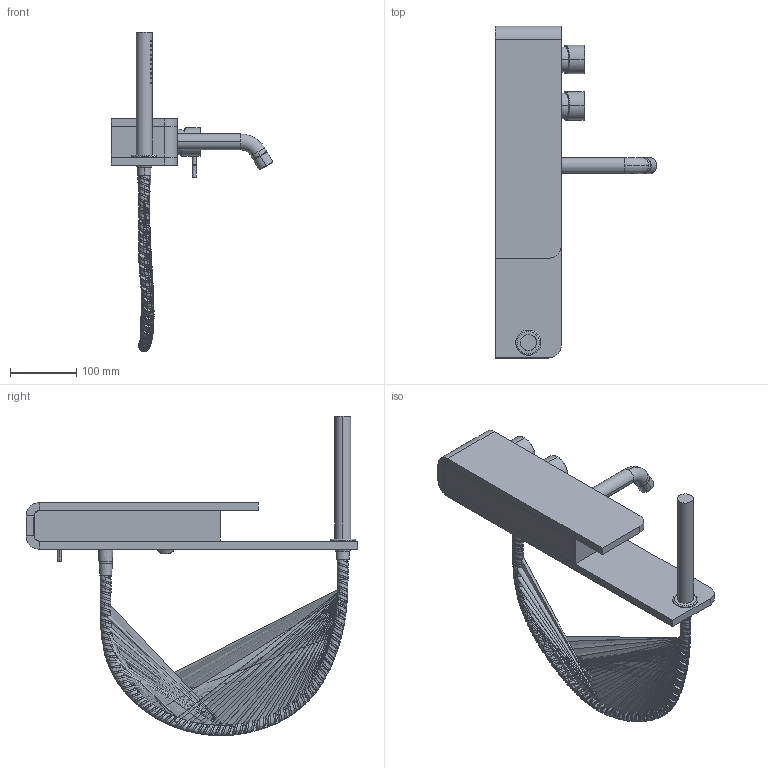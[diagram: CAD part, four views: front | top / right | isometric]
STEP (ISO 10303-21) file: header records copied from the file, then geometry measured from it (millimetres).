
FILE_DESCRIPTION (( 'STEP AP203' ), '1' );
FILE_NAME ('PDCR100B0.STEP', '2020-04-13T15:14:52', ( '' ), ( '' ), 'SwSTEP 2.0', 'SolidWorks 2018', '' );
FILE_SCHEMA (( 'CONFIG_CONTROL_DESIGN' ));
Products named in the file (7): Zamenit_shlang_PDCR100B0-prt2.stp; Zamenit_shlang_PDCR100B0-prt4.stp; Zamenit_shlang_PDCR100B0-prt0.stp; Zamenit_shlang_PDCR100B0.stp; Zamenit_shlang_PDCR100B0-prt1.stp; Êîïèÿ Øëàíã^PDCR100B0; PDCR100B0
Assembly tree (5 placements, depth 3):
  Zamenit_shlang_PDCR100B0-prt4.stp
  PDCR100B0
    Zamenit_shlang_PDCR100B0.stp
      Zamenit_shlang_PDCR100B0-prt0.stp
      Zamenit_shlang_PDCR100B0-prt1.stp
      Zamenit_shlang_PDCR100B0-prt2.stp
    Êîïèÿ Øëàíã^PDCR100B0
Bounding box: 243.71 x 500 x 480.88 mm (x, y, z)
Volume: 6022089.3 mm3; surface area: 1517641.4 mm2
Topology: 7 solids, 7 shells, 420 faces, 908 edges, 589 vertices
Faces by surface type: cylinder 313, plane 51, bspline 24, torus 22, cone 6, sphere 4
Entity records: 47833 total; most frequent: CARTESIAN_POINT 38855, ORIENTED_EDGE 1802, DIRECTION 1431, EDGE_CURVE 901, VERTEX_POINT 586, AXIS2_PLACEMENT_3D 562, EDGE_LOOP 515, FACE_OUTER_BOUND 420
